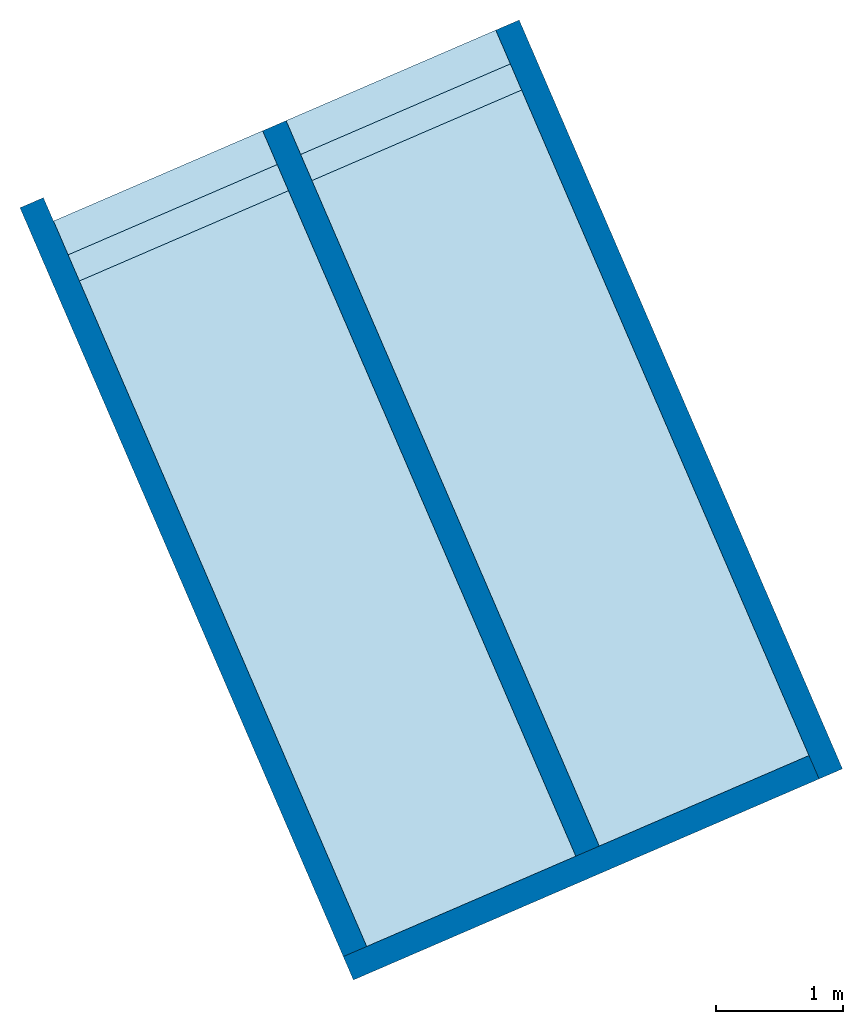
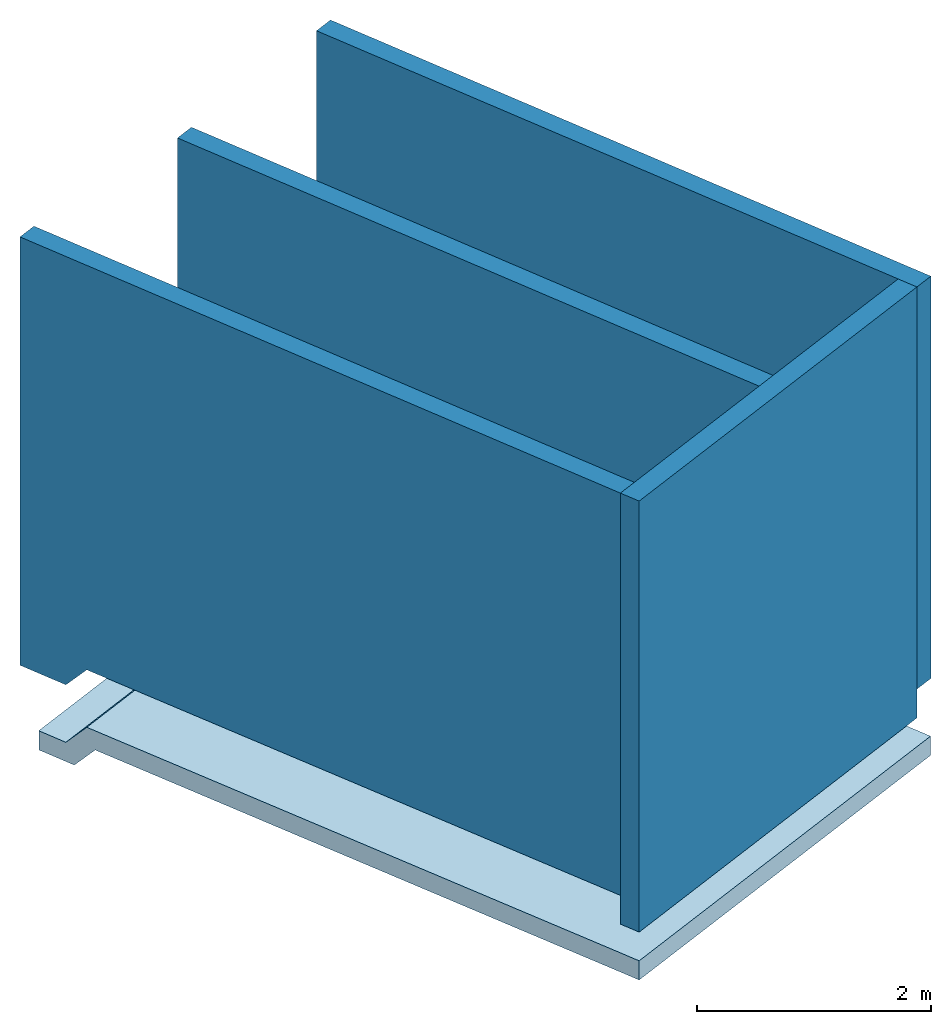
# One storey: 4 walls, 1 slab, 3 openings.
"""IFC4 building model written with IfcOpenShell, lengths in metres."""

from ifc_helpers import new_model, entity, si_unit, converted_unit, derived_unit, direction, frame, origin, place, context, subcontext, project, spatial, indexed_curve, outline, extrude, polygons, material, type_object, element, save


model = new_model("IFC4")

# Units and contexts
model_context = context("Model", 3, precision=1e-05, world=origin(), true_north=direction((6.123233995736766e-17, 1.0)))
body_context = subcontext(model_context, "Body", "Model", "MODEL_VIEW")
ifc_project = project(units=[si_unit("LENGTHUNIT", "METRE"), si_unit("AREAUNIT", "SQUARE_METRE"), si_unit("VOLUMEUNIT", "CUBIC_METRE"), converted_unit("PLANEANGLEUNIT", "DEGREE", entity("IfcPlaneAngleMeasure", 0.017453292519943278), si_unit("PLANEANGLEUNIT", "RADIAN"), dimensions=[0, 0, 0, 0, 0, 0, 0]), derived_unit("THERMALTRANSMITTANCEUNIT", [(si_unit("MASSUNIT", "GRAM", prefix="KILO"), 1), (si_unit("THERMODYNAMICTEMPERATUREUNIT", "KELVIN"), -1), (si_unit("TIMEUNIT", "SECOND"), -3)]), derived_unit("USERDEFINED", [(si_unit("MASSUNIT", "GRAM", prefix="KILO"), 1), (si_unit("THERMODYNAMICTEMPERATUREUNIT", "KELVIN"), -1), (si_unit("TIMEUNIT", "SECOND"), -2)]), derived_unit("THERMALRESISTANCEUNIT", [(si_unit("MASSUNIT", "GRAM", prefix="KILO"), -1), (si_unit("TIMEUNIT", "SECOND"), 3), (si_unit("THERMODYNAMICTEMPERATUREUNIT", "KELVIN"), 1)]), si_unit("MASSUNIT", "GRAM", prefix="KILO"), derived_unit("MOMENTOFINERTIAUNIT", [(si_unit("LENGTHUNIT", "METRE"), 4)]), derived_unit("LINEARFORCEUNIT", [(si_unit("MASSUNIT", "GRAM", prefix="KILO"), 1), (si_unit("TIMEUNIT", "SECOND"), -2)]), derived_unit("WARPINGCONSTANTUNIT", [(si_unit("LENGTHUNIT", "METRE"), 6)])], contexts=[model_context])

# Site, building, storey
site_placement = place(None, origin())
site = spatial("IfcSite", under=ifc_project, at=site_placement, Name="Default", CompositionType="ELEMENT")
building_placement = place(site_placement, frame((-21.752541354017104, -73.50235179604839, 317.2999999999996), z_axis=(0.0, 0.0, 1.0), x_axis=(-0.39637753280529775, 0.918087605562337, 0.0)))
building = spatial("IfcBuilding", under=site, at=building_placement, Name="CESFAM Coyhaique", CompositionType="ELEMENT")
storey_placement = place(building_placement, frame((0.0, 0.0, -3.5499999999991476)))
storey = spatial("IfcBuildingStorey", under=building, at=storey_placement, Name="Base Estanques", CompositionType="ELEMENT", Elevation=-3.5499999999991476)

# Slab
ifc_material = material(Name="HA")
slab_type = type_object("IfcSlabType", Name="Losa base estanques:Losa base estanques", PredefinedType="FLOOR", material=ifc_material)
slab_placement = place(storey_placement, origin())
element("IfcSlab", 1, at=slab_placement, inside=storey, type_object=slab_type, Name="Losa base estanques:Losa base estanques", ObjectType="Losa base estanques:Losa base estanques", PredefinedType="FLOOR", context=body_context, shape_type="SweptSolid", body=[
    extrude(outline(indexed_curve([(-3.5213069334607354, -0.19960277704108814), (2.1899256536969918, -0.1996027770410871), (2.41419865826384, 0.049538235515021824), (2.703061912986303, 0.048399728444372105), (2.703850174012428, 0.24839817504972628), (2.3254546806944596, 0.24988955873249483), (2.1008654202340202, 0.00039722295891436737), (-3.520912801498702, 0.00039722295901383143), (-3.6971742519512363, 0.0010919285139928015), (-3.6979625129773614, -0.1989065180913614), (-3.5213069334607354, -0.19960277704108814)], self_intersect=False)), frame((-15.612956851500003, 1.7432584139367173, -0.5134797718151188), z_axis=(0.0, 1.0, 0.0), x_axis=(0.9999922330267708, 0.0, -0.003941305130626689)), (0.0, 0.0, 1.0), 4.1749996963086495),
])

# Wall
wall_type = type_object("IfcWallType", Name="Basic Wall:Contención-HA_200mm", PredefinedType="STANDARD")
wall_1_placement = place(storey_placement, frame((-19.210106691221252, 1.9382581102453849, 0.0), z_axis=(0.0, 0.0, 1.0), x_axis=(0.0, 1.0, 0.0)))
element("IfcWall", 2, at=wall_1_placement, inside=storey, type_object=wall_type, material=ifc_material, Name="Basic Wall:Contención-HA_200mm", ObjectType="Basic Wall:Contención-HA_200mm", PredefinedType="NOTDEFINED", context=body_context, shape_type="SweptSolid", body=[
    extrude(outline(indexed_curve([(3.980000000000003, 0.10000000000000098), (-1.6006979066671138e-16, 0.10000000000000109), (1.6006979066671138e-16, -0.10000000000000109), (3.980000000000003, -0.10000000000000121), (3.980000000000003, 0.10000000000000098)], self_intersect=False)), origin(), (0.0, 0.0, 1.0), 4.49999880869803),
])

# Wall, opening
wall_2_placement = place(storey_placement, frame((-19.110106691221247, 3.8307582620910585, 0.027467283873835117)))
wall_2 = element("IfcWall", 3, at=wall_2_placement, inside=storey, type_object=wall_type, material=ifc_material, Name="Basic Wall:Contención-HA_200mm", ObjectType="Basic Wall:Contención-HA_200mm", PredefinedType="NOTDEFINED", context=body_context, shape_type="Tessellation", body=[
    polygons([(2.075115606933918e-15, -0.09999999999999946, 0.272531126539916), (5.687845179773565, -0.1, 0.25002300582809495), (5.911134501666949, -0.1, 0.0), (6.2, -0.09999999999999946, 0.0), (6.2, -0.09999999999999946, 4.472531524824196), (2.075115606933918e-15, -0.09999999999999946, 4.472531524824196), (1.3736483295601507e-15, 0.09999999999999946, 0.272531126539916), (1.3736483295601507e-15, 0.09999999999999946, 4.472531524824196), (6.200000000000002, 0.10000000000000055, 4.472531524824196), (6.200000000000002, 0.10000000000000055, 0.0), (5.9111345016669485, 0.1, 0.0), (5.687845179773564, 0.10000000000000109, 0.25002300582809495)], [[[1, 2, 3, 4, 5, 6]], [[7, 8, 9, 10, 11, 12]], [[1, 6, 8, 7]], [[5, 4, 10, 9]], [[6, 5, 9, 8]], [[2, 1, 7, 12]], [[3, 2, 12, 11]], [[4, 3, 11, 10]]], closed=True),
])
opening_1_placement = place(wall_2_placement, origin())
element("IfcOpeningElement", 4, at=opening_1_placement, cuts=wall_2, Name="Basic Wall:Contención-HA_200mm", PredefinedType="OPENING", context=body_context, shape_type="SweptSolid", body=[
    extrude(outline(indexed_curve([(-2.1367220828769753, -2.1962734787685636), (-1.801506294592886, -2.1962734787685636), (2.0708963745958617, 2.1053743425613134), (1.867332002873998, 2.287172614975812), (-2.1367220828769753, -2.1962734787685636)], self_intersect=False)), frame((2.849744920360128, 0.10000000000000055, 0.130737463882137), z_axis=(0.0, -1.0, 0.0), x_axis=(-0.6661062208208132, 0.0, 0.7458568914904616)), (0.0, 0.0, 1.0), 0.2),
])

wall_3_placement = place(storey_placement, frame((-12.710106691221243, 5.818258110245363, 0.02746728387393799), z_axis=(0.0, 0.0, 1.0), x_axis=(-1.0, 0.0, 0.0)))
wall_3 = element("IfcWall", 5, at=wall_3_placement, inside=storey, type_object=wall_type, material=ifc_material, Name="Basic Wall:Contención-HA_200mm", ObjectType="Basic Wall:Contención-HA_200mm", PredefinedType="NOTDEFINED", context=body_context, shape_type="Tessellation", body=[
    polygons([(8.935503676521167e-17, -0.10000000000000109, 4.472531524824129), (8.935503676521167e-17, -0.10000000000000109, 2.972532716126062), (8.935503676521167e-17, -0.10000000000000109, 5.414335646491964e-16), (0.20000000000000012, -0.1, 0.0), (0.4888654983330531, -0.1, 5.414335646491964e-16), (0.7121548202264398, -0.1, 0.2500230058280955), (6.4, -0.1, 0.27253112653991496), (6.400000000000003, -0.1, 4.472531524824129), (-6.455469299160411e-16, 0.09999999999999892, 5.414335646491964e-16), (-6.455469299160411e-16, 0.09999999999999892, 2.972532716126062), (-6.455469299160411e-16, 0.09999999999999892, 4.472531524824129), (0.19999999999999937, 0.1, 4.472531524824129), (6.400000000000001, 0.09999999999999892, 4.472531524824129), (6.400000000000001, 0.09999999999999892, 0.27253112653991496), (0.7121548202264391, 0.1, 0.2500230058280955), (0.4888654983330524, 0.1, 5.414335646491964e-16), (0.19999999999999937, 0.1, 0.0)], [[[1, 2, 3, 4, 5, 6, 7, 8]], [[9, 10, 11, 12, 13, 14, 15, 16, 17]], [[8, 7, 14, 13]], [[1, 11, 10, 9, 3, 2]], [[1, 8, 13, 12, 11]], [[5, 4, 3, 9, 17, 16]], [[6, 5, 16, 15]], [[7, 6, 15, 14]]], closed=True),
])
opening_2_placement = place(wall_3_placement, origin())
element("IfcOpeningElement", 6, at=opening_2_placement, cuts=wall_3, Name="Basic Wall:Contención-HA_200mm", PredefinedType="OPENING", context=body_context, shape_type="SweptSolid", body=[
    extrude(outline(indexed_curve([(-3.061389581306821, -0.13073746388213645), (2.94974492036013, -0.13073746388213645), (2.94974492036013, 0.14218938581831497), (-2.838100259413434, 0.11928554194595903), (-3.061389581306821, -0.13073746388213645)], self_intersect=False)), frame((3.550255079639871, 0.1, 0.13073746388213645), z_axis=(0.0, -1.0, 0.0), x_axis=(1.0, 0.0, 0.0)), (0.0, 0.0, 1.0), 0.2),
])

wall_4_placement = place(storey_placement, frame((-12.910106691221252, 1.8382581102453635, 0.02746728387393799), z_axis=(0.0, 0.0, 1.0), x_axis=(-1.0, 0.0, 0.0)))
wall_4 = element("IfcWall", 7, at=wall_4_placement, inside=storey, type_object=wall_type, material=ifc_material, Name="Basic Wall:Contención-HA_200mm", ObjectType="Basic Wall:Contención-HA_200mm", PredefinedType="NOTDEFINED", context=body_context, shape_type="Tessellation", body=[
    polygons([(2.1920041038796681e-16, -0.1, 4.472531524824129), (2.1920041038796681e-16, -0.1, 5.414335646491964e-16), (0.288865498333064, -0.1, 5.414335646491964e-16), (0.5121548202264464, -0.10000000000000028, 0.25002300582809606), (6.4, -0.1, 0.27332257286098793), (6.400000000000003, -0.1, 4.472531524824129), (6.200000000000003, -0.1, 4.472531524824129), (-4.738345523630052e-16, 0.1, 5.414335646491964e-16), (-4.738345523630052e-16, 0.1, 4.472531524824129), (6.400000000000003, 0.1, 4.472531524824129), (6.400000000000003, 0.1, 0.27332257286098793), (0.5121548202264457, 0.09999999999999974, 0.25002300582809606), (0.28886549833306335, 0.1, 5.414335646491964e-16)], [[[1, 2, 3, 4, 5, 6, 7]], [[8, 9, 10, 11, 12, 13]], [[6, 5, 11, 10]], [[1, 9, 8, 2]], [[1, 7, 6, 10, 9]], [[3, 2, 8, 13]], [[4, 3, 13, 12]], [[5, 4, 12, 11]]], closed=True),
])
opening_3_placement = place(wall_4_placement, origin())
element("IfcOpeningElement", 8, at=opening_3_placement, cuts=wall_4, Name="Basic Wall:Contención-HA_200mm", PredefinedType="OPENING", context=body_context, shape_type="SweptSolid", body=[
    extrude(outline(indexed_curve([(-3.0613895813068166, -0.13073746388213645), (2.949744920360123, -0.13073746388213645), (2.949744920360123, 0.14218938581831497), (-2.838100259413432, 0.11928554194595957), (-3.0613895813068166, -0.13073746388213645)], self_intersect=False)), frame((3.3502550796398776, 0.10000000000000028, 0.13073746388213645), z_axis=(0.0, -1.0, 0.0), x_axis=(1.0, 0.0, 0.0)), (0.0, 0.0, 1.0), 0.2),
])

save(model, "model.ifc")
